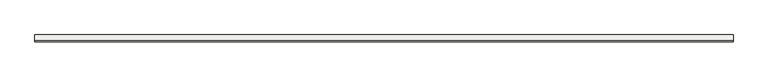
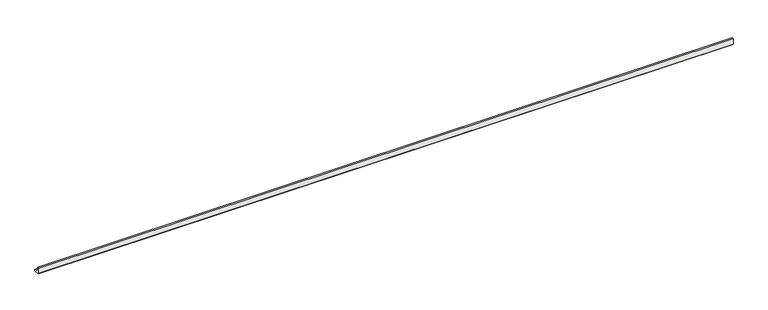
"""IFC4 building model written with IfcOpenShell, lengths in millimetres: slab geometry, ROSA GRES_112 : Pieza 112_Aqua_Plomo_Liso."""

from ifc_helpers import new_model, si_unit, point, frame, frame_2d, origin, place, context, project, spatial, polyline, circle_curve, trimmed, segment, composite_curve, outline, extrude, source, transform, mapped, element, save


def slab_de703868(model_context):
    return source(origin(), model_context, "Body", "SweptSolid", [
        extrude(outline(composite_curve([segment(polyline([(0.0, 8.7114978), (0.0, 40.0), (9.9734114, 40.0)]), True, "CONTINUOUS"), segment(trimmed(circle_curve(frame_2d((39.9955547, 39.9955547)), 30.0221435), [point((9.9734114, 40.0))], [point((40.0, 9.9734114))], True, "CARTESIAN"), True, "CONTINUOUS"), segment(polyline([(40.0, 9.9734114), (40.0, 0.0), (8.7114978, 0.0), (0.0, 8.7114978)]), True, "CONTINUOUS")], self_intersect=False)), frame((0.0, 0.0, 0.0), z_axis=(1.0, 0.0, 0.0), x_axis=(0.0, 1.0, 0.0)), (0.0, 0.0, 1.0), 3991.3841601),
    ])


if __name__ == "__main__":
    model = new_model("IFC4")
    model_context = context("Model", 3, world=origin())
    ifc_project = project(units=[si_unit("LENGTHUNIT", "METRE", prefix="MILLI")], contexts=[model_context])
    site = spatial("IfcSite", under=ifc_project)
    building = spatial("IfcBuilding", under=site)
    placement = place(None, origin())
    slab_shape = slab_de703868(model_context)
    element("IfcSlab", 1, ObjectType="ROSA GRES_112 : Pieza 112_Aqua_Plomo_Liso", at=placement, inside=building, context=model_context, shape_type="MappedRepresentation", body=[
        mapped(slab_shape, transform((0.0, 0.0, 0.0), x_axis=(1.0, 0.0, 0.0), y_axis=(0.0, 1.0, 0.0), z_axis=(0.0, 0.0, 1.0))),
    ])
    save(model, "model.ifc")
